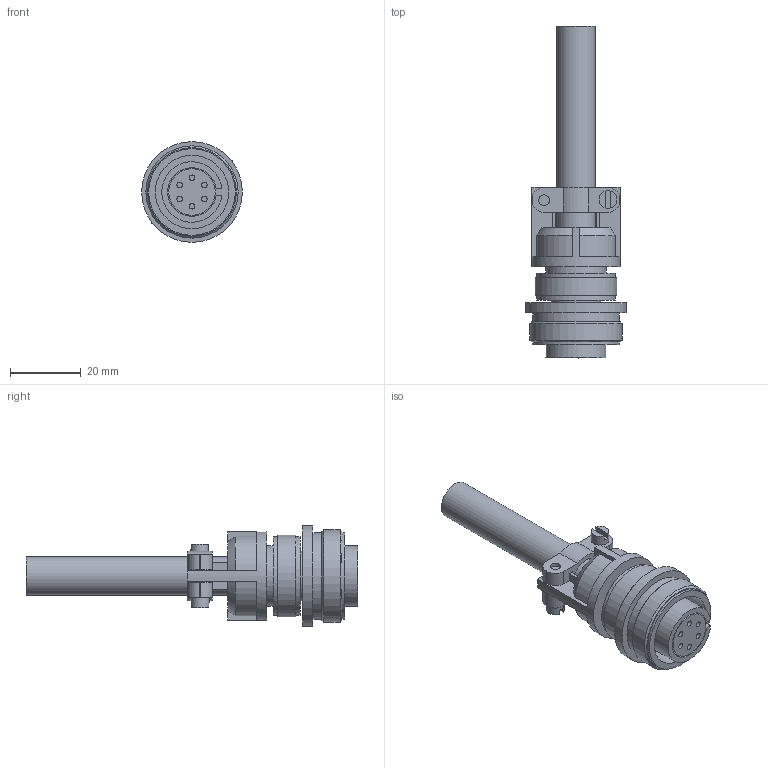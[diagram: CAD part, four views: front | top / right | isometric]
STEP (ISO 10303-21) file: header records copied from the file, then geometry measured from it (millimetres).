
FILE_DESCRIPTION( ( 'STEP AP214' ), '1' );
FILE_NAME( 'N:/Engineering/CAD_Solid/LVDT/HYD/Gegenstecker AT3106F.stp', '2011-12-14T14:25:39', ( ' ' ), ( ' ' ), 'XStep 1.0', ' ', ' ' );
FILE_SCHEMA( ( 'CONFIG_CONTROL_DESIGN) ( )' ) );
Length unit declared in the file: metre
Products named in the file (2): 1; 2
Bounding box: 28.4 x 93.55 x 28.4 mm (x, y, z)
Surface area: 13088.5 mm2 (no closed solid volume)
Topology: 0 solids, 130 shells, 130 faces, 587 edges, 561 vertices
Faces by surface type: plane 84, cylinder 40, cone 6
Full cylindrical faces by diameter (mm): 1.6 x6, 3 x2, 5 x2, 7.9 x1, 10.8 x1, 13.1 x1, 14 x1, 17 x1, 20.7 x1, 22.2 x2, 23.1 x1, 24.4 x2, 25 x1, 26 x1, 28.4 x1
Entity records: 6905 total; most frequent: CARTESIAN_POINT 1296, DIRECTION 1008, ORIENTED_EDGE 558, EDGE_CURVE 558, VERTEX_POINT 558, LINE 340, VECTOR 340, AXIS2_PLACEMENT_3D 334
